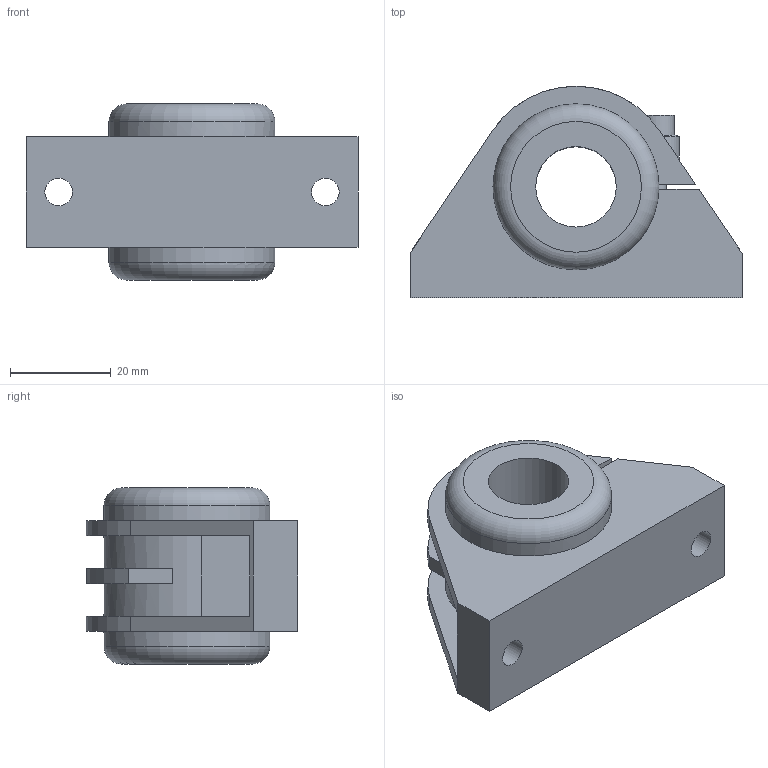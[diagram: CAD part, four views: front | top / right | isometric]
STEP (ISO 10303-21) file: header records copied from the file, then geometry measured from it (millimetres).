
FILE_DESCRIPTION(('STEP AP203'),'1');
FILE_NAME('//192.168.1.1/share/s-4 技術開発/s-4-4_CAD/s-4-4-3_見直し済み/008 修正済み/DLS/DLS_TOP/DLS-16.step','2022-02-18T05:48:36',(' '),(' '),'Spatial InterOp 3D',' ',' ');
FILE_SCHEMA(('CONFIG_CONTROL_DESIGN'));
Length unit declared in the file: millimetre
Products named in the file (1): 1
Bounding box: 66 x 42 x 35 mm (x, y, z)
Volume: 39549.1 mm3; surface area: 12665.6 mm2
Topology: 1 solids, 1 shells, 60 faces, 166 edges, 110 vertices
Faces by surface type: plane 41, cylinder 16, torus 2, cone 1
Full cylindrical faces by diameter (mm): 4 x1, 5.5 x2, 7 x1, 16 x1, 33 x2
Entity records: 1898 total; most frequent: CARTESIAN_POINT 363, DIRECTION 304, ORIENTED_EDGE 300, EDGE_CURVE 150, VERTEX_POINT 103, AXIS2_PLACEMENT_3D 102, LINE 100, VECTOR 100
